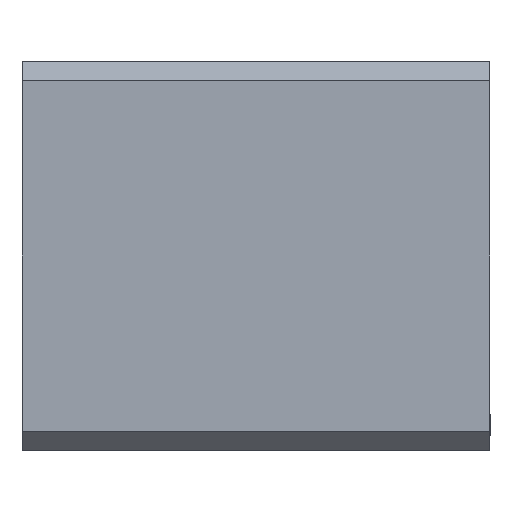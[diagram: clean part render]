
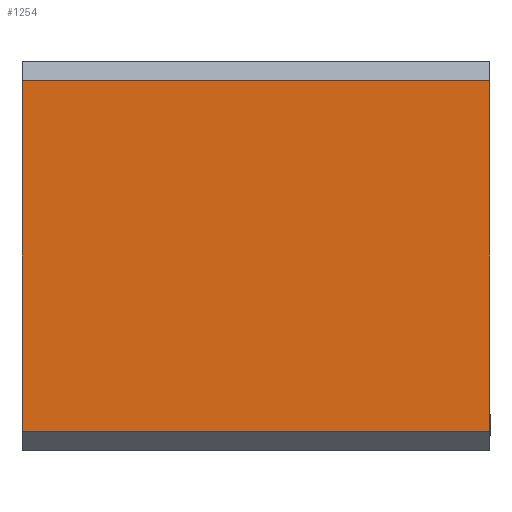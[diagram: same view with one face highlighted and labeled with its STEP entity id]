
A CAD part, front view. The second image highlights one B-rep face of the part: STEP entity #1254.
In plain terms, the highlighted planar face has unit normal (0, -1, 0).
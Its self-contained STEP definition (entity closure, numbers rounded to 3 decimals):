
#400 = LINE ( 'NONE', #12227, #7496 ) ;
#728 = EDGE_CURVE ( 'NONE', #13082, #9988, #733, .T. ) ;
#733 = LINE ( 'NONE', #15834, #11460 ) ;
#907 = DIRECTION ( 'NONE',  ( 0., 0., -1. ) ) ;
#1254 = ADVANCED_FACE ( 'NONE', ( #6570 ), #5746, .F. ) ;
#2943 = LINE ( 'NONE', #8999, #9673 ) ;
#3551 = VERTEX_POINT ( 'NONE', #10973 ) ;
#4116 = CARTESIAN_POINT ( 'NONE',  ( -36., -30., 27. ) ) ;
#4455 = DIRECTION ( 'NONE',  ( 0., 1., 0. ) ) ;
#4554 = VECTOR ( 'NONE', #17375, 1000. ) ;
#5409 = DIRECTION ( 'NONE',  ( 1., 0., 0. ) ) ;
#5746 = PLANE ( 'NONE',  #16717 ) ;
#6345 = DIRECTION ( 'NONE',  ( 0., 0., -1. ) ) ;
#6570 = FACE_OUTER_BOUND ( 'NONE', #8067, .T. ) ;
#7496 = VECTOR ( 'NONE', #5409, 1000. ) ;
#7887 = ORIENTED_EDGE ( 'NONE', *, *, #16792, .F. ) ;
#8067 = EDGE_LOOP ( 'NONE', ( #8611, #14958, #12000, #7887 ) ) ;
#8611 = ORIENTED_EDGE ( 'NONE', *, *, #728, .T. ) ;
#8613 = CARTESIAN_POINT ( 'NONE',  ( 36., -30., 27. ) ) ;
#8999 = CARTESIAN_POINT ( 'NONE',  ( 36., -30., 30. ) ) ;
#9673 = VECTOR ( 'NONE', #907, 1000. ) ;
#9988 = VERTEX_POINT ( 'NONE', #13454 ) ;
#10973 = CARTESIAN_POINT ( 'NONE',  ( 36., -30., -27. ) ) ;
#11460 = VECTOR ( 'NONE', #6345, 1000. ) ;
#12000 = ORIENTED_EDGE ( 'NONE', *, *, #14498, .F. ) ;
#12227 = CARTESIAN_POINT ( 'NONE',  ( -36., -30., -27. ) ) ;
#12569 = CARTESIAN_POINT ( 'NONE',  ( 36., -30., 30. ) ) ;
#13082 = VERTEX_POINT ( 'NONE', #4116 ) ;
#13454 = CARTESIAN_POINT ( 'NONE',  ( -36., -30., -27. ) ) ;
#13920 = DIRECTION ( 'NONE',  ( 0., 0., 1. ) ) ;
#13928 = VERTEX_POINT ( 'NONE', #8613 ) ;
#14498 = EDGE_CURVE ( 'NONE', #13928, #3551, #2943, .T. ) ;
#14958 = ORIENTED_EDGE ( 'NONE', *, *, #16431, .T. ) ;
#15354 = LINE ( 'NONE', #16005, #4554 ) ;
#15834 = CARTESIAN_POINT ( 'NONE',  ( -36., -30., 30. ) ) ;
#16005 = CARTESIAN_POINT ( 'NONE',  ( -36., -30., 27. ) ) ;
#16431 = EDGE_CURVE ( 'NONE', #9988, #3551, #400, .T. ) ;
#16717 = AXIS2_PLACEMENT_3D ( 'NONE', #12569, #4455, #13920 ) ;
#16792 = EDGE_CURVE ( 'NONE', #13082, #13928, #15354, .T. ) ;
#17375 = DIRECTION ( 'NONE',  ( 1., 0., 0. ) ) ;
